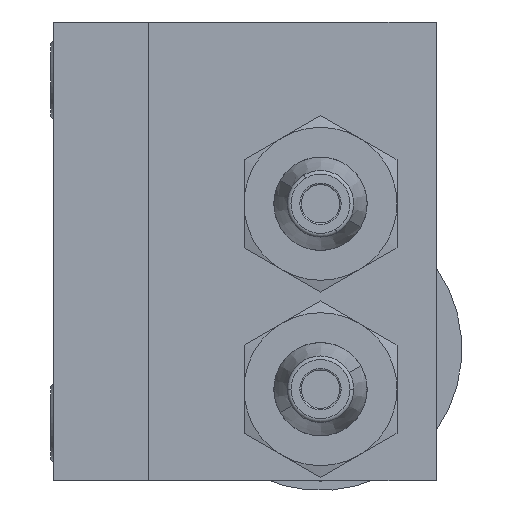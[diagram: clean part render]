
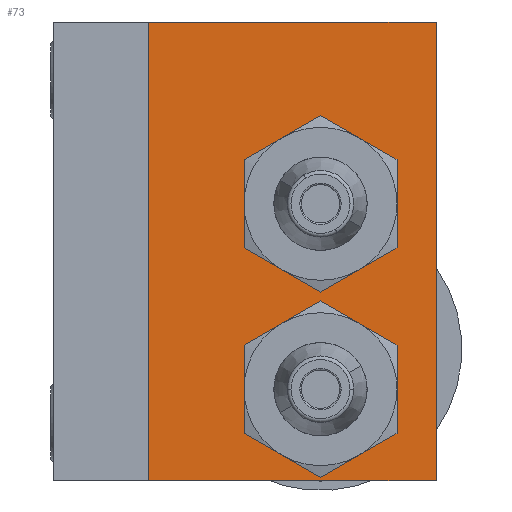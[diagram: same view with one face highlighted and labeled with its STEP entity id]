
A CAD part, left-side view. The second image highlights one B-rep face of the part: STEP entity #73.
In plain terms, the highlighted planar face has unit normal (-1, 0, 0).
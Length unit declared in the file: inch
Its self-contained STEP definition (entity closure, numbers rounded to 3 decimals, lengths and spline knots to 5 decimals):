
#73 = ADVANCED_FACE ( 'NONE', ( #7174, #841, #8869 ), #15203, .T. ) ;
#161 = ORIENTED_EDGE ( 'NONE', *, *, #3547, .T. ) ;
#374 = AXIS2_PLACEMENT_3D ( 'NONE', #15979, #8081, #21503 ) ;
#633 = CARTESIAN_POINT ( 'NONE',  ( -1.5, 0.37776, 0.3 ) ) ;
#841 = FACE_OUTER_BOUND ( 'NONE', #16581, .T. ) ;
#1243 = VERTEX_POINT ( 'NONE', #7177 ) ;
#1376 = EDGE_CURVE ( 'NONE', #12067, #14355, #20964, .T. ) ;
#1415 = DIRECTION ( 'NONE',  ( 0., 1., 0. ) ) ;
#2150 = EDGE_CURVE ( 'NONE', #16072, #24184, #14033, .T. ) ;
#2275 = AXIS2_PLACEMENT_3D ( 'NONE', #633, #8663, #16696 ) ;
#3130 = CIRCLE ( 'NONE', #2275, 0.12414 ) ;
#3213 = LINE ( 'NONE', #15326, #10003 ) ;
#3238 = LINE ( 'NONE', #17200, #24640 ) ;
#3496 = ORIENTED_EDGE ( 'NONE', *, *, #13241, .T. ) ;
#3547 = EDGE_CURVE ( 'NONE', #14355, #12067, #21223, .T. ) ;
#4572 = EDGE_LOOP ( 'NONE', ( #14551, #23417 ) ) ;
#4930 = CARTESIAN_POINT ( 'NONE',  ( -1.5, 0., 0.75 ) ) ;
#6191 = CARTESIAN_POINT ( 'NONE',  ( -1.5, 0.25362, 0.3 ) ) ;
#6390 = ORIENTED_EDGE ( 'NONE', *, *, #1376, .T. ) ;
#6508 = EDGE_LOOP ( 'NONE', ( #161, #6390 ) ) ;
#7118 = LINE ( 'NONE', #15144, #17096 ) ;
#7174 = FACE_BOUND ( 'NONE', #4572, .T. ) ;
#7177 = CARTESIAN_POINT ( 'NONE',  ( -1.5, 0.93976, 1.5 ) ) ;
#7770 = AXIS2_PLACEMENT_3D ( 'NONE', #4930, #15327, #23211 ) ;
#8081 = DIRECTION ( 'NONE',  ( 1., 0., 0. ) ) ;
#8200 = CARTESIAN_POINT ( 'NONE',  ( -1.5, 0.31569, 0.7984 ) ) ;
#8663 = DIRECTION ( 'NONE',  ( 1., 0., 0. ) ) ;
#8859 = CARTESIAN_POINT ( 'NONE',  ( -1.5, 0.50189, 0.3 ) ) ;
#8869 = FACE_BOUND ( 'NONE', #6508, .T. ) ;
#9038 = AXIS2_PLACEMENT_3D ( 'NONE', #12707, #20477, #18252 ) ;
#9102 = EDGE_CURVE ( 'NONE', #19072, #15593, #7118, .T. ) ;
#10003 = VECTOR ( 'NONE', #11246, 39.37008 ) ;
#10123 = CARTESIAN_POINT ( 'NONE',  ( -1.5, 0.37776, 0.3 ) ) ;
#11246 = DIRECTION ( 'NONE',  ( 0., 0., 1. ) ) ;
#11363 = EDGE_CURVE ( 'NONE', #19072, #14525, #3213, .T. ) ;
#12067 = VERTEX_POINT ( 'NONE', #13842 ) ;
#12086 = CARTESIAN_POINT ( 'NONE',  ( -1.5, 0., 0. ) ) ;
#12707 = CARTESIAN_POINT ( 'NONE',  ( -1.5, 0.37776, 0.90591 ) ) ;
#13158 = ORIENTED_EDGE ( 'NONE', *, *, #11363, .T. ) ;
#13241 = EDGE_CURVE ( 'NONE', #14525, #1243, #3238, .T. ) ;
#13289 = CARTESIAN_POINT ( 'NONE',  ( -1.5, 0.93976, 0.75 ) ) ;
#13842 = CARTESIAN_POINT ( 'NONE',  ( -1.5, 0.43982, 1.01341 ) ) ;
#13941 = DIRECTION ( 'NONE',  ( 0., 0., -1. ) ) ;
#14033 = CIRCLE ( 'NONE', #22008, 0.12414 ) ;
#14355 = VERTEX_POINT ( 'NONE', #8200 ) ;
#14525 = VERTEX_POINT ( 'NONE', #21331 ) ;
#14551 = ORIENTED_EDGE ( 'NONE', *, *, #2150, .T. ) ;
#14861 = LINE ( 'NONE', #13289, #18475 ) ;
#15144 = CARTESIAN_POINT ( 'NONE',  ( -1.5, 0., 0. ) ) ;
#15203 = PLANE ( 'NONE',  #7770 ) ;
#15326 = CARTESIAN_POINT ( 'NONE',  ( -1.5, 0., 0.75 ) ) ;
#15327 = DIRECTION ( 'NONE',  ( -1., 0., 0. ) ) ;
#15487 = DIRECTION ( 'NONE',  ( 0., 1., 0. ) ) ;
#15593 = VERTEX_POINT ( 'NONE', #22516 ) ;
#15979 = CARTESIAN_POINT ( 'NONE',  ( -1.5, 0.37776, 0.90591 ) ) ;
#16072 = VERTEX_POINT ( 'NONE', #6191 ) ;
#16581 = EDGE_LOOP ( 'NONE', ( #22870, #22675, #13158, #3496 ) ) ;
#16696 = DIRECTION ( 'NONE',  ( 0., 0., -1. ) ) ;
#17096 = VECTOR ( 'NONE', #1415, 39.37008 ) ;
#17200 = CARTESIAN_POINT ( 'NONE',  ( -1.5, 0., 1.5 ) ) ;
#18252 = DIRECTION ( 'NONE',  ( 0., 0., -1. ) ) ;
#18404 = DIRECTION ( 'NONE',  ( 1., 0., 0. ) ) ;
#18475 = VECTOR ( 'NONE', #24716, 39.37008 ) ;
#18616 = EDGE_CURVE ( 'NONE', #24184, #16072, #3130, .T. ) ;
#19072 = VERTEX_POINT ( 'NONE', #12086 ) ;
#20477 = DIRECTION ( 'NONE',  ( 1., 0., 0. ) ) ;
#20964 = CIRCLE ( 'NONE', #374, 0.12414 ) ;
#21078 = EDGE_CURVE ( 'NONE', #1243, #15593, #14861, .T. ) ;
#21223 = CIRCLE ( 'NONE', #9038, 0.12414 ) ;
#21331 = CARTESIAN_POINT ( 'NONE',  ( -1.5, 0., 1.5 ) ) ;
#21503 = DIRECTION ( 'NONE',  ( 0., 0., -1. ) ) ;
#22008 = AXIS2_PLACEMENT_3D ( 'NONE', #10123, #18404, #13941 ) ;
#22516 = CARTESIAN_POINT ( 'NONE',  ( -1.5, 0.93976, 0. ) ) ;
#22675 = ORIENTED_EDGE ( 'NONE', *, *, #9102, .F. ) ;
#22870 = ORIENTED_EDGE ( 'NONE', *, *, #21078, .T. ) ;
#23211 = DIRECTION ( 'NONE',  ( 0., 0., 1. ) ) ;
#23417 = ORIENTED_EDGE ( 'NONE', *, *, #18616, .T. ) ;
#24184 = VERTEX_POINT ( 'NONE', #8859 ) ;
#24640 = VECTOR ( 'NONE', #15487, 39.37008 ) ;
#24716 = DIRECTION ( 'NONE',  ( 0., 0., -1. ) ) ;
